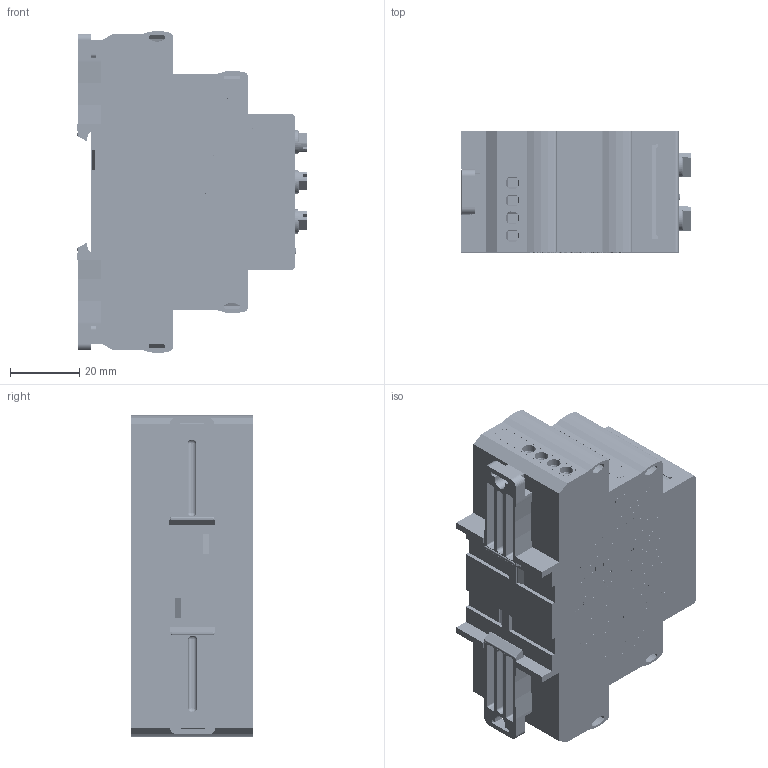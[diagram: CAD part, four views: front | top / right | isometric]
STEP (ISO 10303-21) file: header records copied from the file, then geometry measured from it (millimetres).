
FILE_DESCRIPTION(('STEP AP203'), '1');
FILE_NAME('ﾑ碚濱ﾐﾂﾎ-083', '', ('UNSPECIFIED'), ('UNSPECIFIED'), 'ASCON STEP Converter 1.6', 'ASCON Math Kernel', '');
FILE_SCHEMA(('CONFIG_CONTROL_DESIGN'));
Length unit declared in the file: millimetre
Products named in the file (16): R-knob_2017_Hex2mm__Џｮ гｬｮｫзｭЁо
Assembly tree (28 placements, depth 2):
  (unnamed)
    (unnamed)  x2
    (unnamed)  x2
    (unnamed)  x4
    (unnamed)  x4
    (unnamed)  x2
    (unnamed)
    (unnamed)
    R-knob_2017_Hex2mm__Џｮ гｬｮｫзｭЁо  x5
    (unnamed)
    (unnamed)
    (unnamed)
    (unnamed)
    (unnamed)
    (unnamed)
    (unnamed)
Bounding box: 66.3 x 35.02 x 92.99 mm (x, y, z)
Volume: 41234.2 mm3; surface area: 56382.7 mm2
Topology: 723 solids, 723 shells, 27674 faces, 78215 edges, 52025 vertices
Faces by surface type: plane 19299, extrusion 7855, cylinder 427, cone 45, torus 36, sphere 8, bspline 4
Full cylindrical faces by diameter (mm): 1.238 x12, 2.1 x2, 2.2 x2, 3.9 x20, 4.5 x5, 5 x5
Entity records: 1102340 total; most frequent: CARTESIAN_POINT 227380, ORIENTED_EDGE 149862, DIRECTION 104682, EDGE_CURVE 74931, VECTOR 66656, LINE 58801, VERTEX_POINT 49937, EDGE_LOOP 27458
